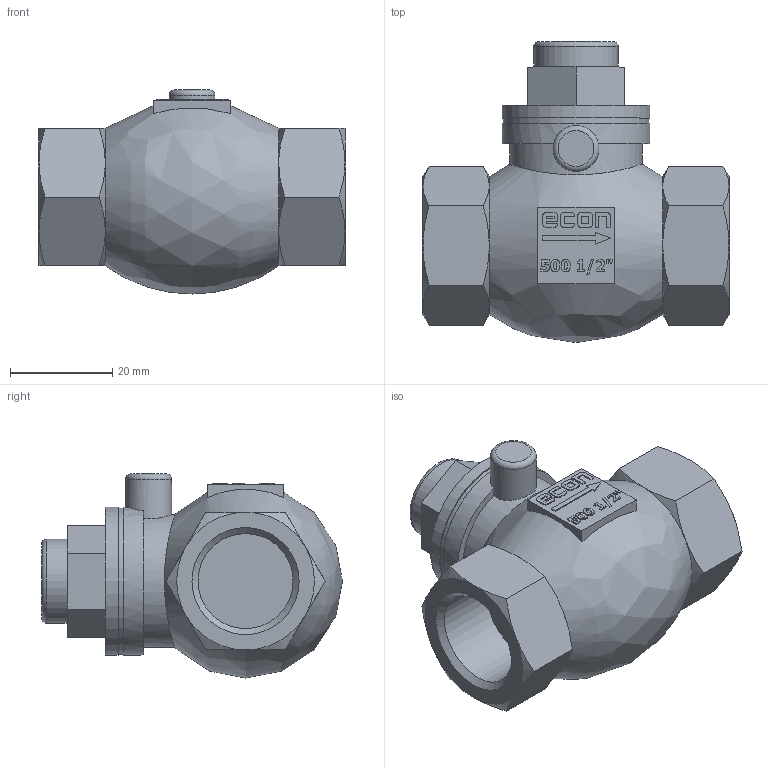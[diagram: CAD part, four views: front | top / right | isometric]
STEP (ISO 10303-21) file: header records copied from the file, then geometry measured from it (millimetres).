
FILE_DESCRIPTION(/* description */ ('Eriks item no: 11811316'),/* implementation_level */ '2;1');
FILE_NAME(/* name */ 'L:\DATA\ENG\Inventor\Econ 3D modellen\terugslagklep\500\500-015-PN16.stp',/* time_stamp */ '2023-12-06T15:58:26+01:00',/* author */ ('roger.thijssen'),/* organization */ (''),/* preprocessor_version */ 'ST-DEVELOPER v18',/* originating_system */ 'Autodesk Inventor 2020',/* authorisation */ '');
FILE_SCHEMA (('CONFIG_CONTROL_DESIGN'));
Length unit declared in the file: millimetre
Products named in the file (1): Check valve, 500-015-PN16
Bounding box: 60 x 59 x 40 mm (x, y, z)
Volume: 51788.3 mm3; surface area: 11436.2 mm2
Topology: 1 solids, 1 shells, 228 faces, 586 edges, 385 vertices
Faces by surface type: plane 130, bspline 49, cone 26, cylinder 21, torus 2
Full cylindrical faces by diameter (mm): 9 x1, 16.5 x1, 18.631 x2, 26 x1, 28.6 x1, 29 x2
Entity records: 7434 total; most frequent: CARTESIAN_POINT 2215, ORIENTED_EDGE 1172, DIRECTION 884, EDGE_CURVE 586, VERTEX_POINT 385, LINE 348, VECTOR 348, AXIS2_PLACEMENT_3D 268
